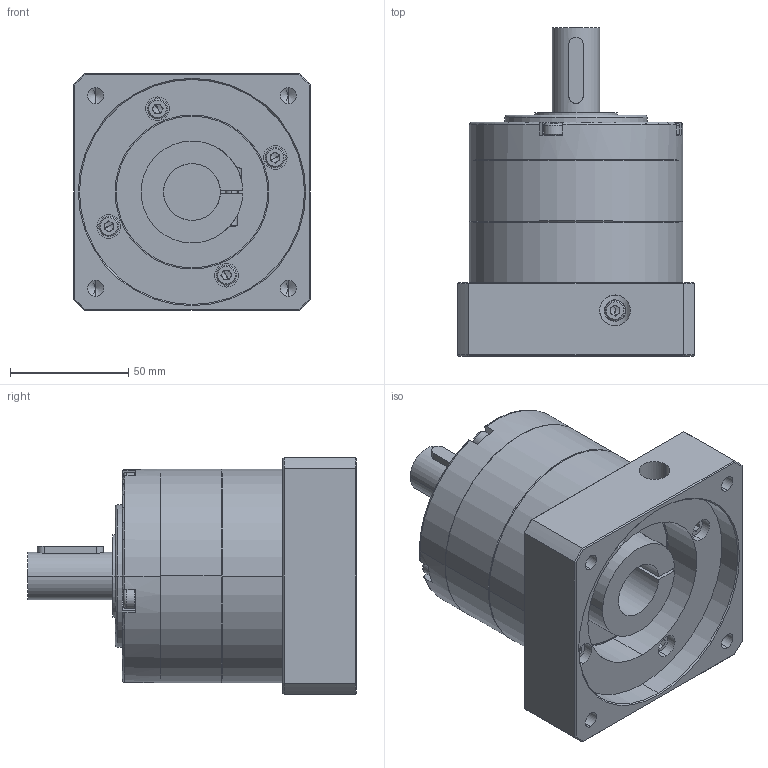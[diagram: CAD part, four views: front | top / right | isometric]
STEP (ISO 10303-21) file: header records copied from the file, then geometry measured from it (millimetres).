
FILE_DESCRIPTION (( 'STEP AP203' ), '1' );
FILE_NAME ('1G3YS.095100.041.STEP', '2019-05-16T07:42:51', ( '' ), ( '' ), 'SwSTEP 2.0', 'SolidWorks 2010', '' );
FILE_SCHEMA (( 'CONFIG_CONTROL_DESIGN' ));
Length unit declared in the file: millimetre
Products named in the file (9): M4､ｺ､ｻｨ､ﾁｳｵｷ[ｼﾒｲﾕ､ﾆ]12~70mm_M4xP0.7x30L; 234BN34310_銑工; 1G3YS.095100.041; PNS80-FP(模型)_4.成品; PAN34-B(插齒模型)_7.縮短; M5､ｺ､ｻｨ､ﾁｳｵｷ[ｼﾒｲﾕ､ﾆ]8~95mm_020mm; 雙圓鍵6x28; 沉頭內六角M5xP0.8x20L_CB5-5; PAN34-BP(模型)_2.?24
Assembly tree (18 placements, depth 2):
  1G3YS.095100.041
    沉頭內六角M5xP0.8x20L_CB5-5  x5
    PAN34-BP(模型)_2.?24
    M5､ｺ､ｻｨ､ﾁｳｵｷ[ｼﾒｲﾕ､ﾆ]8~95mm_020mm  x4
    M4､ｺ､ｻｨ､ﾁｳｵｷ[ｼﾒｲﾕ､ﾆ]12~70mm_M4xP0.7x30L  x4
    PAN34-B(插齒模型)_7.縮短
    PNS80-FP(模型)_4.成品
    234BN34310_銑工
    雙圓鍵6x28
Bounding box: 100 x 138.7 x 100 mm (x, y, z)
Volume: 621879.4 mm3; surface area: 121297 mm2
Topology: 18 solids, 18 shells, 600 faces, 1374 edges, 835 vertices
Faces by surface type: plane 252, cylinder 208, cone 120, torus 20
Entity records: 12050 total; most frequent: CARTESIAN_POINT 2196, DIRECTION 1983, ORIENTED_EDGE 1652, EDGE_CURVE 826, AXIS2_PLACEMENT_3D 811, VERTEX_POINT 526, EDGE_LOOP 454, CIRCLE 425
